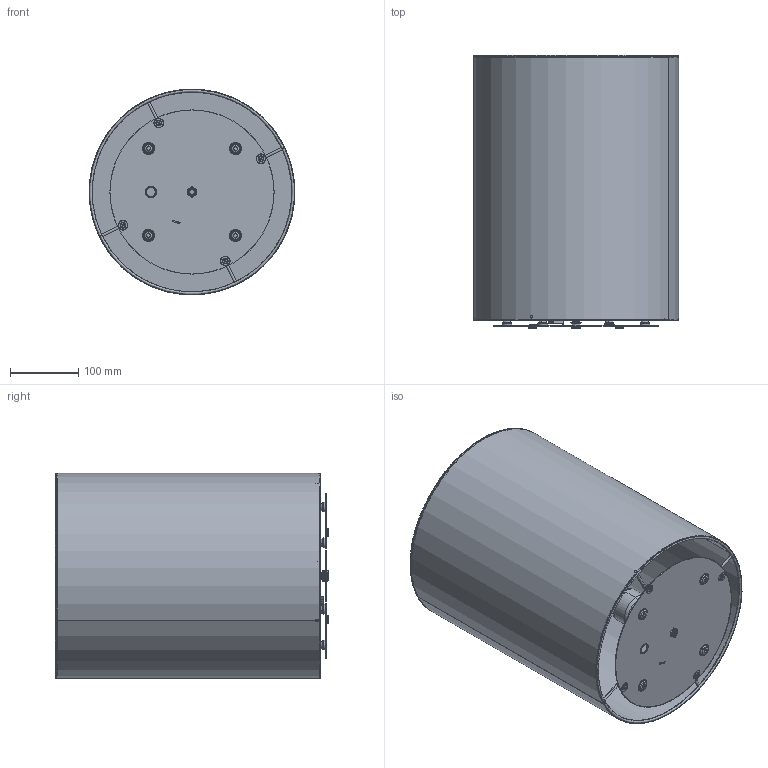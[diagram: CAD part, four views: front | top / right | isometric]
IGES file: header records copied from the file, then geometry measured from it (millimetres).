
Start section: SolidWorks IGES file using analytic representation for surfaces
Global section: file name: E:\....SOLID WORKS\...BORYS\KLOSZE KLIK KLIK\KLOSZE\z³o¿enia\KLOSZ 300 zlozenie.IGS; native system: SolidWorks 2016; preprocessor: SolidWorks 2016; author: DELL; date: 170412.095331; units: millimetre
Bounding box: 300.74 x 399.3 x 300.74 mm (x, y, z)
Surface area: 1032706.1 mm2 (no closed solid volume)
Topology: 0 solids, 0 shells, 657 faces, 9452 edges, 9436 vertices
Faces by surface type: revolution 357, bspline 300
